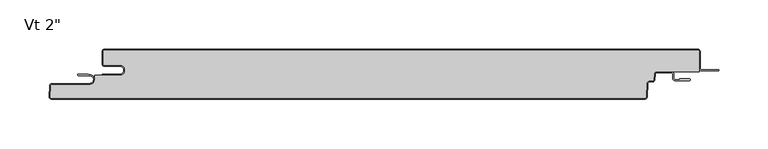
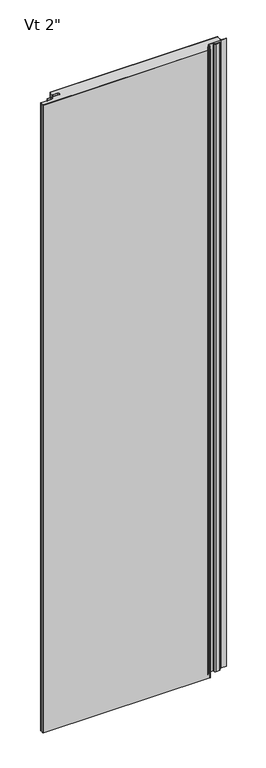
"""IFC4 building model written with IfcOpenShell, lengths in millimetres: plate geometry."""

from ifc_helpers import new_model, si_unit, point, frame, frame_2d, origin, origin_with_axes, place, context, project, spatial, polyline, circle_curve, ellipse_curve, trimmed, segment, composite_curve, outline, extrude, source, transform, mapped, element, save
from ifc_brep_helpers import plane_surface, cylinder_surface, revolved_surface, extruded_surface, advanced_brep


def plate_82fcdb9b(model_context):
    return source(origin(), model_context, "Body", "SolidModel", [
        extrude(outline(composite_curve([segment(trimmed(circle_curve(frame_2d((259.7683457, -25.4)), 2.5875), [point((259.7683457, -22.8125))], [point((257.1843918, -25.2645807))], True, "CARTESIAN"), True, "CONTINUOUS"), segment(polyline([(257.1843918, -25.2645807), (256.8823155, -31.028539)]), True, "CONTINUOUS"), segment(trimmed(circle_curve(frame_2d((255.5029585, -30.95625)), 1.38125), [point((256.8823155, -31.028539))], [point((255.5029585, -32.3375))], False, "CARTESIAN"), True, "CONTINUOUS"), segment(polyline([(255.5029585, -32.3375), (252.4591521, -32.3375)]), True, "CONTINUOUS"), segment(trimmed(circle_curve(frame_2d((252.4591521, -34.925)), 2.5875), [point((252.4591521, -32.3375))], [point((249.8751982, -34.7895807))], True, "CARTESIAN"), True, "CONTINUOUS"), segment(polyline([(249.8751982, -34.7895807), (249.1571352, -48.491039)]), True, "CONTINUOUS"), segment(trimmed(circle_curve(frame_2d((247.7777781, -48.41875)), 1.38125), [point((249.1571352, -48.491039))], [point((247.7777781, -49.8))], False, "CARTESIAN"), True, "CONTINUOUS"), segment(polyline([(247.7777781, -49.8), (-355.4656861, -49.8)]), True, "CONTINUOUS"), segment(trimmed(circle_curve(frame_2d((-355.4656861, -48.41875)), 1.38125), [point((-355.4656861, -49.8))], [point((-356.8450431, -48.346461))], False, "CARTESIAN"), True, "CONTINUOUS"), segment(polyline([(-356.8450431, -48.346461), (-356.2626617, -37.233961)]), True, "CONTINUOUS"), segment(trimmed(circle_curve(frame_2d((-354.8833046, -37.30625)), 1.38125), [point((-356.2626617, -37.233961))], [point((-354.8833046, -35.925))], False, "CARTESIAN"), True, "CONTINUOUS"), segment(polyline([(-354.8833046, -35.925), (-316.7, -35.925)]), True, "CONTINUOUS"), segment(trimmed(circle_curve(frame_2d((-316.7, -30.95625)), 4.96875), [point((-316.7, -35.925))], [point((-311.73125, -30.95625))], True, "CARTESIAN"), True, "CONTINUOUS"), segment(polyline([(-311.73125, -30.95625), (-311.73125, -26.4), (-285.74375, -26.4)]), True, "CONTINUOUS"), segment(trimmed(circle_curve(frame_2d((-285.74375, -21.43125)), 4.96875), [point((-285.74375, -26.4))], [point((-285.74375, -16.4625))], True, "CARTESIAN"), True, "CONTINUOUS"), segment(polyline([(-285.74375, -16.4625), (-301.61875, -16.4625)]), True, "CONTINUOUS"), segment(trimmed(circle_curve(frame_2d((-301.61875, -15.08125)), 1.38125), [point((-301.61875, -16.4625))], [point((-303.0, -15.08125))], False, "CARTESIAN"), True, "CONTINUOUS"), segment(polyline([(-303.0, -15.08125), (-303.0, -2.38125)]), True, "CONTINUOUS"), segment(trimmed(circle_curve(frame_2d((-301.61875, -2.38125)), 1.38125), [point((-303.0, -2.38125))], [point((-301.61875, -1.0))], False, "CARTESIAN"), True, "CONTINUOUS"), segment(polyline([(-301.61875, -1.0), (301.63125, -1.0)]), True, "CONTINUOUS"), segment(trimmed(circle_curve(frame_2d((301.63125, -2.38125)), 1.38125), [point((301.63125, -1.0))], [point((303.0125, -2.38125))], False, "CARTESIAN"), True, "CONTINUOUS"), segment(polyline([(303.0125, -2.38125), (303.0125, -22.8125), (259.7683457, -22.8125)]), True, "CONTINUOUS")], self_intersect=False)), origin_with_axes(), (0.0, 0.0, 1.0), 2400.0),
        extrude(outline(composite_curve([segment(polyline([(-304.0, -25.4), (-285.74375, -25.4)]), True, "CONTINUOUS"), segment(trimmed(circle_curve(frame_2d((-285.74375, -21.43125)), 3.96875), [point((-285.74375, -25.4))], [point((-285.74375, -17.4625))], True, "CARTESIAN"), True, "CONTINUOUS"), segment(polyline([(-285.74375, -17.4625), (-301.61875, -17.4625)]), True, "CONTINUOUS"), segment(trimmed(circle_curve(frame_2d((-301.61875, -15.08125)), 2.38125), [point((-301.61875, -17.4625))], [point((-304.0, -15.08125))], False, "CARTESIAN"), True, "CONTINUOUS"), segment(polyline([(-304.0, -15.08125), (-304.0, -2.38125)]), True, "CONTINUOUS"), segment(trimmed(circle_curve(frame_2d((-301.61875, -2.38125)), 2.38125), [point((-304.0, -2.38125))], [point((-301.61875, 0.0))], False, "CARTESIAN"), True, "CONTINUOUS"), segment(polyline([(-301.61875, 0.0), (301.63125, 0.0)]), True, "CONTINUOUS"), segment(trimmed(circle_curve(frame_2d((301.63125, -2.38125)), 2.38125), [point((301.63125, 0.0))], [point((304.0125, -2.38125))], False, "CARTESIAN"), True, "CONTINUOUS"), segment(polyline([(304.0125, -2.38125), (304.0125, -19.446875)]), True, "CONTINUOUS"), segment(trimmed(circle_curve(frame_2d((305.6, -19.446875)), 1.5875), [point((304.0125, -19.446875))], [point((305.6, -21.034375))], True, "CARTESIAN"), True, "CONTINUOUS"), segment(polyline([(305.6, -21.034375), (323.0625, -21.034375), (323.0625, -22.034375), (305.6, -22.034375)]), True, "CONTINUOUS"), segment(trimmed(circle_curve(frame_2d((305.6, -19.446875)), 2.5875), [point((305.6, -22.034375))], [point((303.0125, -19.446875))], False, "CARTESIAN"), True, "CONTINUOUS"), segment(polyline([(303.0125, -19.446875), (303.0125, -2.38125)]), True, "CONTINUOUS"), segment(trimmed(circle_curve(frame_2d((301.63125, -2.38125)), 1.38125), [point((303.0125, -2.38125))], [point((301.63125, -1.0))], True, "CARTESIAN"), True, "CONTINUOUS"), segment(polyline([(301.63125, -1.0), (-301.61875, -1.0)]), True, "CONTINUOUS"), segment(trimmed(circle_curve(frame_2d((-301.61875, -2.38125)), 1.38125), [point((-301.61875, -1.0))], [point((-303.0, -2.38125))], True, "CARTESIAN"), True, "CONTINUOUS"), segment(polyline([(-303.0, -2.38125), (-303.0, -15.08125)]), True, "CONTINUOUS"), segment(trimmed(circle_curve(frame_2d((-301.61875, -15.08125)), 1.38125), [point((-303.0, -15.08125))], [point((-301.61875, -16.4625))], True, "CARTESIAN"), True, "CONTINUOUS"), segment(polyline([(-301.61875, -16.4625), (-285.74375, -16.4625)]), True, "CONTINUOUS"), segment(trimmed(circle_curve(frame_2d((-285.74375, -21.43125)), 4.96875), [point((-285.74375, -16.4625))], [point((-285.74375, -26.4))], False, "CARTESIAN"), True, "CONTINUOUS"), segment(polyline([(-285.74375, -26.4), (-304.0, -26.4), (-304.0, -25.4)]), True, "CONTINUOUS")], self_intersect=False)), origin_with_axes(), (0.0, 0.0, 1.0), 2400.0),
        advanced_brep(
        [(-328.0252049, -25.4, 2400.0), (-328.0252049, -26.9875, 2400.0), (-316.7142674, -26.9875, 2400.0), (-316.7142674, -34.925, 2400.0), (-354.8975721, -34.925, 2400.0), (-357.2755586, -37.181625, 2400.0), (-357.8579401, -48.294125, 2400.0), (-355.4799535, -50.8, 2400.0), (247.7635107, -50.8, 2400.0), (250.1414973, -48.543375, 2400.0), (250.8595603, -34.8419167, 2400.0), (252.4448847, -33.3375, 2400.0), (255.4886911, -33.3375, 2400.0), (257.8666776, -31.080875, 2400.0), (258.1687539, -25.3169167, 2400.0), (259.7540783, -23.8125, 2400.0), (274.6294826, -23.8125, 2400.0), (276.2169826, -25.4, 2400.0), (276.2169826, -29.5671875, 2400.0), (278.5982326, -31.9484375, 2400.0), (293.0898532, -31.9484375, 2400.0), (293.0898532, -30.1546875, 2400.0), (283.3607326, -30.1546875, 2400.0), (283.3607326, -30.9484375, 2400.0), (278.5982326, -30.9484375, 2400.0), (277.2169826, -29.5671875, 2400.0), (277.2169826, -25.4, 2400.0), (274.6294826, -22.8125, 2400.0), (259.7540783, -22.8125, 2400.0), (257.1701244, -25.2645807, 2400.0), (256.8680481, -31.028539, 2400.0), (255.4886911, -32.3375, 2400.0), (252.4448847, -32.3375, 2400.0), (249.8609307, -34.7895807, 2400.0), (249.1428677, -48.491039, 2400.0), (247.7635107, -49.8, 2400.0), (-355.4799535, -49.8, 2400.0), (-356.8593106, -48.346461, 2400.0), (-356.2769291, -37.233961, 2400.0), (-354.8975721, -35.925, 2400.0), (-316.7142674, -35.925, 2400.0), (-316.7142674, -25.9875, 2400.0), (-318.3017674, -26.19375, 2400.0), (-318.3017674, -25.4, 2400.0), (-328.0252049, -25.4, 0.0), (-318.3017674, -25.4, 0.0), (-318.3017674, -26.19375, 0.0), (-316.7142674, -25.9875, 0.0), (-316.7142674, -35.925, 0.0), (-354.8975721, -35.925, 0.0), (-356.2769291, -37.233961, 0.0), (-356.8593106, -48.346461, 0.0), (-355.4799535, -49.8, 0.0), (247.7635107, -49.8, 0.0), (249.1428677, -48.491039, 0.0), (249.8609307, -34.7895807, 0.0), (252.4448847, -32.3375, 0.0), (255.4886911, -32.3375, 0.0), (256.8680481, -31.028539, 0.0), (257.1701244, -25.2645807, 0.0), (259.7540783, -22.8125, 0.0), (274.6294826, -22.8125, 0.0), (277.2169826, -25.4, 0.0), (277.2169826, -29.5671875, 0.0), (278.5982326, -30.9484375, 0.0), (283.3607326, -30.9484375, 0.0), (283.3607326, -30.1546875, 0.0), (293.0898532, -30.1546875, 0.0), (293.0898532, -31.9484375, 0.0), (278.5982326, -31.9484375, 0.0), (276.2169826, -29.5671875, 0.0), (276.2169826, -25.4, 0.0), (274.6294826, -23.8125, 0.0), (259.7540783, -23.8125, 0.0), (258.1687539, -25.3169167, 0.0), (257.8666776, -31.080875, 0.0), (255.4886911, -33.3375, 0.0), (252.4448847, -33.3375, 0.0), (250.8595603, -34.8419167, 0.0), (250.1414973, -48.543375, 0.0), (247.7635107, -50.8, 0.0), (-355.4799535, -50.8, 0.0), (-357.8579401, -48.294125, 0.0), (-357.2755586, -37.181625, 0.0), (-354.8975721, -34.925, 0.0), (-316.7142674, -34.925, 0.0), (-316.7142674, -26.9875, 0.0), (-328.0252049, -26.9875, 0.0)],
        [
            (0, 1, circle_curve(frame((-328.0252049, -26.19375, 2400.0), z_axis=(0.0, 0.0, 1.0), x_axis=(1.0, 0.0, 0.0)), 0.79375)),
            (1, 2),
            (2, 3, circle_curve(frame((-316.7142674, -30.95625, 2400.0), z_axis=(0.0, 0.0, -1.0), x_axis=(1.0, 0.0, 0.0)), 3.96875)),
            (3, 4),
            (4, 5, circle_curve(frame((-354.8975721, -37.30625, 2400.0), z_axis=(0.0, 0.0, 1.0), x_axis=(1.0, 0.0, 0.0)), 2.38125)),
            (5, 6),
            (6, 7, circle_curve(frame((-355.4799535, -48.41875, 2400.0), z_axis=(0.0, 0.0, 1.0), x_axis=(1.0, 0.0, 0.0)), 2.38125)),
            (7, 8),
            (8, 9, circle_curve(frame((247.7635107, -48.41875, 2400.0), z_axis=(0.0, 0.0, 1.0), x_axis=(1.0, 0.0, 0.0)), 2.38125)),
            (9, 10),
            (10, 11, circle_curve(frame((252.4448847, -34.925, 2400.0), z_axis=(0.0, 0.0, -1.0), x_axis=(1.0, 0.0, 0.0)), 1.5875)),
            (11, 12),
            (12, 13, circle_curve(frame((255.4886911, -30.95625, 2400.0), z_axis=(0.0, 0.0, 1.0), x_axis=(1.0, 0.0, 0.0)), 2.38125)),
            (13, 14),
            (14, 15, circle_curve(frame((259.7540783, -25.4, 2400.0), z_axis=(0.0, 0.0, -1.0), x_axis=(1.0, 0.0, 0.0)), 1.5875)),
            (15, 16),
            (16, 17, circle_curve(frame((274.6294826, -25.4, 2400.0), z_axis=(0.0, 0.0, -1.0), x_axis=(1.0, 0.0, 0.0)), 1.5875)),
            (17, 18),
            (18, 19, circle_curve(frame((278.5982326, -29.5671875, 2400.0), z_axis=(0.0, 0.0, 1.0), x_axis=(1.0, 0.0, 0.0)), 2.38125)),
            (19, 20),
            (20, 21, ellipse_curve(frame((293.0898532, -31.0515625, 2400.0), z_axis=(0.0, 0.0, 1.0), x_axis=(0.0, 1.0, 0.0)), 0.896875, 0.7852275)),
            (21, 22),
            (22, 23),
            (23, 24),
            (24, 25, circle_curve(frame((278.5982326, -29.5671875, 2400.0), z_axis=(0.0, 0.0, -1.0), x_axis=(1.0, 0.0, 0.0)), 1.38125)),
            (25, 26),
            (26, 27, circle_curve(frame((274.6294826, -25.4, 2400.0), z_axis=(0.0, 0.0, 1.0), x_axis=(1.0, 0.0, 0.0)), 2.5875)),
            (27, 28),
            (28, 29, circle_curve(frame((259.7540783, -25.4, 2400.0), z_axis=(0.0, 0.0, 1.0), x_axis=(1.0, 0.0, 0.0)), 2.5875)),
            (29, 30),
            (30, 31, circle_curve(frame((255.4886911, -30.95625, 2400.0), z_axis=(0.0, 0.0, -1.0), x_axis=(1.0, 0.0, 0.0)), 1.38125)),
            (31, 32),
            (32, 33, circle_curve(frame((252.4448847, -34.925, 2400.0), z_axis=(0.0, 0.0, 1.0), x_axis=(1.0, 0.0, 0.0)), 2.5875)),
            (33, 34),
            (34, 35, circle_curve(frame((247.7635107, -48.41875, 2400.0), z_axis=(0.0, 0.0, -1.0), x_axis=(1.0, 0.0, 0.0)), 1.38125)),
            (35, 36),
            (36, 37, circle_curve(frame((-355.4799535, -48.41875, 2400.0), z_axis=(0.0, 0.0, -1.0), x_axis=(1.0, 0.0, 0.0)), 1.38125)),
            (37, 38),
            (38, 39, circle_curve(frame((-354.8975721, -37.30625, 2400.0), z_axis=(0.0, 0.0, -1.0), x_axis=(1.0, 0.0, 0.0)), 1.38125)),
            (39, 40),
            (40, 41, circle_curve(frame((-316.7142674, -30.95625, 2400.0), z_axis=(0.0, 0.0, 1.0), x_axis=(1.0, 0.0, 0.0)), 4.96875)),
            (41, 42),
            (42, 43),
            (43, 0),
            (44, 45),
            (45, 46),
            (46, 47),
            (47, 48, circle_curve(frame((-316.7142674, -30.95625, 0.0), z_axis=(0.0, 0.0, -1.0), x_axis=(1.0, 0.0, 0.0)), 4.96875)),
            (48, 49),
            (49, 50, circle_curve(frame((-354.8975721, -37.30625, 0.0), z_axis=(0.0, 0.0, 1.0), x_axis=(1.0, 0.0, 0.0)), 1.38125)),
            (50, 51),
            (51, 52, circle_curve(frame((-355.4799535, -48.41875, 0.0), z_axis=(0.0, 0.0, 1.0), x_axis=(1.0, 0.0, 0.0)), 1.38125)),
            (52, 53),
            (53, 54, circle_curve(frame((247.7635107, -48.41875, 0.0), z_axis=(0.0, 0.0, 1.0), x_axis=(1.0, 0.0, 0.0)), 1.38125)),
            (54, 55),
            (55, 56, circle_curve(frame((252.4448847, -34.925, 0.0), z_axis=(0.0, 0.0, -1.0), x_axis=(1.0, 0.0, 0.0)), 2.5875)),
            (56, 57),
            (57, 58, circle_curve(frame((255.4886911, -30.95625, 0.0), z_axis=(0.0, 0.0, 1.0), x_axis=(1.0, 0.0, 0.0)), 1.38125)),
            (58, 59),
            (59, 60, circle_curve(frame((259.7540783, -25.4, 0.0), z_axis=(0.0, 0.0, -1.0), x_axis=(1.0, 0.0, 0.0)), 2.5875)),
            (60, 61),
            (61, 62, circle_curve(frame((274.6294826, -25.4, 0.0), z_axis=(0.0, 0.0, -1.0), x_axis=(1.0, 0.0, 0.0)), 2.5875)),
            (62, 63),
            (63, 64, circle_curve(frame((278.5982326, -29.5671875, 0.0), z_axis=(0.0, 0.0, 1.0), x_axis=(1.0, 0.0, 0.0)), 1.38125)),
            (64, 65),
            (65, 66),
            (66, 67),
            (67, 68, ellipse_curve(frame((293.0898532, -31.0515625, 0.0), z_axis=(0.0, 0.0, -1.0), x_axis=(0.0, 1.0, 0.0)), 0.896875, 0.7852275)),
            (68, 69),
            (69, 70, circle_curve(frame((278.5982326, -29.5671875, 0.0), z_axis=(0.0, 0.0, -1.0), x_axis=(1.0, 0.0, 0.0)), 2.38125)),
            (70, 71),
            (71, 72, circle_curve(frame((274.6294826, -25.4, 0.0), z_axis=(0.0, 0.0, 1.0), x_axis=(1.0, 0.0, 0.0)), 1.5875)),
            (72, 73),
            (73, 74, circle_curve(frame((259.7540783, -25.4, 0.0), z_axis=(0.0, 0.0, 1.0), x_axis=(1.0, 0.0, 0.0)), 1.5875)),
            (74, 75),
            (75, 76, circle_curve(frame((255.4886911, -30.95625, 0.0), z_axis=(0.0, 0.0, -1.0), x_axis=(1.0, 0.0, 0.0)), 2.38125)),
            (76, 77),
            (77, 78, circle_curve(frame((252.4448847, -34.925, 0.0), z_axis=(0.0, 0.0, 1.0), x_axis=(1.0, 0.0, 0.0)), 1.5875)),
            (78, 79),
            (79, 80, circle_curve(frame((247.7635107, -48.41875, 0.0), z_axis=(0.0, 0.0, -1.0), x_axis=(1.0, 0.0, 0.0)), 2.38125)),
            (80, 81),
            (81, 82, circle_curve(frame((-355.4799535, -48.41875, 0.0), z_axis=(0.0, 0.0, -1.0), x_axis=(1.0, 0.0, 0.0)), 2.38125)),
            (82, 83),
            (83, 84, circle_curve(frame((-354.8975721, -37.30625, 0.0), z_axis=(0.0, 0.0, -1.0), x_axis=(1.0, 0.0, 0.0)), 2.38125)),
            (84, 85),
            (85, 86, circle_curve(frame((-316.7142674, -30.95625, 0.0), z_axis=(0.0, 0.0, 1.0), x_axis=(1.0, 0.0, 0.0)), 3.96875)),
            (86, 87),
            (87, 44, circle_curve(frame((-328.0252049, -26.19375, 0.0), z_axis=(0.0, 0.0, -1.0), x_axis=(1.0, 0.0, 0.0)), 0.79375)),
            (20, 68),
            (67, 21),
            (66, 22),
            (65, 23),
            (41, 47),
            (46, 42),
            (45, 43),
            (40, 48),
            (39, 49),
            (38, 50),
            (37, 51),
            (33, 55),
            (54, 34),
            (32, 56),
            (31, 57),
            (30, 58),
            (29, 59),
            (28, 60),
            (64, 24),
            (63, 25),
            (62, 26),
            (61, 27),
            (18, 70),
            (69, 19),
            (17, 71),
            (16, 72),
            (15, 73),
            (14, 74),
            (13, 75),
            (12, 76),
            (11, 77),
            (10, 78),
            (9, 79),
            (5, 83),
            (82, 6),
            (4, 84),
            (3, 85),
            (2, 86),
            (1, 87),
            (0, 44),
            (36, 52),
            (35, 53),
            (8, 80),
            (7, 81),
        ],
        [
            plane_surface(frame((0.00625, -50.8, 2400.0), z_axis=(0.0, 0.0, 1.0), x_axis=(0.0, -1.0, 0.0))),
            plane_surface(frame((0.00625, -50.8, 0.0), z_axis=(0.0, 0.0, -1.0), x_axis=(0.0, -1.0, 0.0))),
            extruded_surface(trimmed(ellipse_curve(frame((293.0898532, -31.0515625, 2400.0), z_axis=(0.0, 0.0, -1.0), x_axis=(0.0, 1.0, 0.0)), 0.896875, 0.7852275), [point((293.0898532, -30.1546875, 2400.0))], [point((293.0898532, -31.9484375, 2400.0))], True, "CARTESIAN"), (0.0, 0.0, -2400.0), 2400.0),
            plane_surface(frame((283.3607326, -30.1546875, 2400.0), z_axis=(0.0, 1.0, 0.0), x_axis=(0.0, 0.0, -1.0))),
            plane_surface(frame((283.3607326, -30.9484375, 2400.0), z_axis=(-1.0, 0.0, 0.0), x_axis=(0.0, 0.0, -1.0))),
            plane_surface(frame((-318.3017674, -26.19375, 2400.0), z_axis=(-0.12883844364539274, 0.9916655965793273, 0.0), x_axis=(0.0, 0.0, -1.0))),
            plane_surface(frame((-318.3017674, -25.4, 2400.0), z_axis=(1.0, 0.0, 0.0), x_axis=(0.0, 0.0, -1.0))),
            cylinder_surface(frame((-316.7142674, -30.95625, 2400.0), z_axis=(0.0, 0.0, 1.0), x_axis=(1.0, 0.0, 0.0)), 4.96875),
            plane_surface(frame((-316.7142674, -35.925, 2400.0), z_axis=(0.0, -1.0, 0.0), x_axis=(0.0, 0.0, -1.0))),
            revolved_surface(polyline([(-353.51632209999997, -37.30625, 0.0), (-353.51632209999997, -37.30625, 2400.0)]), (-354.8975721, -37.30625, 2400.0), (0.0, 0.0, -1.0)),
            plane_surface(frame((-356.2769291, -37.233961, 2400.0), z_axis=(0.9986295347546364, -0.05233595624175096, 0.0), x_axis=(0.0, 0.0, -1.0))),
            plane_surface(frame((249.1428677, -48.491039, 2400.0), z_axis=(-0.9986295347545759, 0.05233595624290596, 0.0), x_axis=(0.0, 0.0, -1.0))),
            cylinder_surface(frame((252.4448847, -34.925, 2400.0), z_axis=(0.0, 0.0, 1.0), x_axis=(1.0, 0.0, 0.0)), 2.5875),
            plane_surface(frame((252.4448847, -32.3375, 2400.0), z_axis=(0.0, 1.0, 0.0), x_axis=(0.0, 0.0, -1.0))),
            revolved_surface(polyline([(256.8699411, -30.95625, 0.0), (256.8699411, -30.95625, 2400.0)]), (255.4886911, -30.95625, 2400.0), (0.0, 0.0, -1.0)),
            plane_surface(frame((256.8680481, -31.028539, 2400.0), z_axis=(-0.998629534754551, 0.05233595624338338, 0.0), x_axis=(0.0, 0.0, -1.0))),
            cylinder_surface(frame((259.7540783, -25.4, 2400.0), z_axis=(0.0, 0.0, 1.0), x_axis=(1.0, 0.0, 0.0)), 2.5875),
            plane_surface(frame((278.5982326, -30.9484375, 2400.0), z_axis=(0.0, 1.0, 0.0), x_axis=(0.0, 0.0, -1.0))),
            revolved_surface(polyline([(279.97948260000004, -29.5671875, 0.0), (279.97948260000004, -29.5671875, 2400.0)]), (278.5982326, -29.5671875, 2400.0), (0.0, 0.0, -1.0)),
            plane_surface(frame((277.2169826, -25.4, 2400.0), z_axis=(1.0, 0.0, 0.0), x_axis=(0.0, 0.0, -1.0))),
            cylinder_surface(frame((274.6294826, -25.4, 2400.0), z_axis=(0.0, 0.0, 1.0), x_axis=(1.0, 0.0, 0.0)), 2.5875),
            plane_surface(frame((259.7540783, -22.8125, 2400.0), z_axis=(0.0, 1.0, 0.0), x_axis=(0.0, 0.0, -1.0))),
            cylinder_surface(frame((278.5982326, -29.5671875, 2400.0), z_axis=(0.0, 0.0, 1.0), x_axis=(1.0, 0.0, 0.0)), 2.38125),
            plane_surface(frame((276.2169826, -29.5671875, 2400.0), z_axis=(-1.0, 0.0, 0.0), x_axis=(0.0, 0.0, -1.0))),
            revolved_surface(polyline([(276.2169826, -25.4, 0.0), (276.2169826, -25.4, 2400.0)]), (274.6294826, -25.4, 2400.0), (0.0, 0.0, -1.0)),
            plane_surface(frame((274.6294826, -23.8125, 2400.0), z_axis=(0.0, -1.0, 0.0), x_axis=(0.0, 0.0, -1.0))),
            revolved_surface(polyline([(261.3415783, -25.4, 0.0), (261.3415783, -25.4, 2400.0)]), (259.7540783, -25.4, 2400.0), (0.0, 0.0, -1.0)),
            plane_surface(frame((258.1687539, -25.3169167, 2400.0), z_axis=(0.9986295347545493, -0.05233595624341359, 0.0), x_axis=(0.0, 0.0, -1.0))),
            cylinder_surface(frame((255.4886911, -30.95625, 2400.0), z_axis=(0.0, 0.0, 1.0), x_axis=(1.0, 0.0, 0.0)), 2.38125),
            plane_surface(frame((255.4886911, -33.3375, 2400.0), z_axis=(0.0, -1.0, 0.0), x_axis=(0.0, 0.0, -1.0))),
            revolved_surface(polyline([(254.0323847, -34.925, 0.0), (254.0323847, -34.925, 2400.0)]), (252.4448847, -34.925, 2400.0), (0.0, 0.0, -1.0)),
            plane_surface(frame((250.8595603, -34.8419167, 2400.0), z_axis=(0.9986295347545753, -0.052335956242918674, 0.0), x_axis=(0.0, 0.0, -1.0))),
            plane_surface(frame((-357.8579401, -48.294125, 2400.0), z_axis=(-0.9986295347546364, 0.05233595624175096, 0.0), x_axis=(0.0, 0.0, -1.0))),
            cylinder_surface(frame((-354.8975721, -37.30625, 2400.0), z_axis=(0.0, 0.0, 1.0), x_axis=(1.0, 0.0, 0.0)), 2.38125),
            plane_surface(frame((-354.8975721, -34.925, 2400.0), z_axis=(0.0, 1.0, 0.0), x_axis=(0.0, 0.0, -1.0))),
            revolved_surface(polyline([(-312.7455174, -30.95625, 0.0), (-312.7455174, -30.95625, 2400.0)]), (-316.7142674, -30.95625, 2400.0), (0.0, 0.0, -1.0)),
            plane_surface(frame((-316.7142674, -26.9875, 2400.0), z_axis=(0.0, -1.0, 0.0), x_axis=(0.0, 0.0, -1.0))),
            cylinder_surface(frame((-328.0252049, -26.19375, 2400.0), z_axis=(0.0, 0.0, 1.0), x_axis=(1.0, 0.0, 0.0)), 0.79375),
            plane_surface(frame((-328.0252049, -25.4, 2400.0), z_axis=(0.0, 1.0, 0.0), x_axis=(0.0, 0.0, -1.0))),
            revolved_surface(polyline([(-354.0987035, -48.41875, 0.0), (-354.0987035, -48.41875, 2400.0)]), (-355.4799535, -48.41875, 2400.0), (0.0, 0.0, -1.0)),
            plane_surface(frame((-355.4799535, -49.8, 2400.0), z_axis=(0.0, 1.0, 0.0), x_axis=(0.0, 0.0, -1.0))),
            revolved_surface(polyline([(249.1447607, -48.41875, 0.0), (249.1447607, -48.41875, 2400.0)]), (247.7635107, -48.41875, 2400.0), (0.0, 0.0, -1.0)),
            plane_surface(frame((293.0898532, -31.9484375, 2400.0), z_axis=(0.0, -1.0, 0.0), x_axis=(0.0, 0.0, -1.0))),
            cylinder_surface(frame((247.7635107, -48.41875, 2400.0), z_axis=(0.0, 0.0, 1.0), x_axis=(1.0, 0.0, 0.0)), 2.38125),
            plane_surface(frame((247.7635107, -50.8, 2400.0), z_axis=(0.0, -1.0, 0.0), x_axis=(0.0, 0.0, -1.0))),
            cylinder_surface(frame((-355.4799535, -48.41875, 2400.0), z_axis=(0.0, 0.0, 1.0), x_axis=(1.0, 0.0, 0.0)), 2.38125),
        ],
        [
            (0, [[1, 2, 3, 4, 5, 6, 7, 8, 9, 10, 11, 12, 13, 14, 15, 16, 17, 18, 19, 20, 21, 22, 23, 24, 25, 26, 27, 28, 29, 30, 31, 32, 33, 34, 35, 36, 37, 38, 39, 40, 41, 42, 43, 44]]),
            (1, [[45, 46, 47, 48, 49, 50, 51, 52, 53, 54, 55, 56, 57, 58, 59, 60, 61, 62, 63, 64, 65, 66, 67, 68, 69, 70, 71, 72, 73, 74, 75, 76, 77, 78, 79, 80, 81, 82, 83, 84, 85, 86, 87, 88]]),
            (2, [[89, -68, 90, -21]]),
            (3, [[-90, -67, 91, -22]]),
            (4, [[-91, -66, 92, -23]]),
            (5, [[93, -47, 94, -42]]),
            (6, [[-94, -46, 95, -43]]),
            (7, [[96, -48, -93, -41]]),
            (8, [[97, -49, -96, -40]]),
            (9, [[98, -50, -97, -39]]),
            (10, [[99, -51, -98, -38]]),
            (11, [[100, -55, 101, -34]]),
            (12, [[102, -56, -100, -33]]),
            (13, [[103, -57, -102, -32]]),
            (14, [[104, -58, -103, -31]]),
            (15, [[105, -59, -104, -30]]),
            (16, [[106, -60, -105, -29]]),
            (17, [[-92, -65, 107, -24]]),
            (18, [[-107, -64, 108, -25]]),
            (19, [[-108, -63, 109, -26]]),
            (20, [[-109, -62, 110, -27]]),
            (21, [[-110, -61, -106, -28]]),
            (22, [[111, -70, 112, -19]]),
            (23, [[113, -71, -111, -18]]),
            (24, [[114, -72, -113, -17]]),
            (25, [[115, -73, -114, -16]]),
            (26, [[116, -74, -115, -15]]),
            (27, [[117, -75, -116, -14]]),
            (28, [[118, -76, -117, -13]]),
            (29, [[119, -77, -118, -12]]),
            (30, [[120, -78, -119, -11]]),
            (31, [[121, -79, -120, -10]]),
            (32, [[122, -83, 123, -6]]),
            (33, [[124, -84, -122, -5]]),
            (34, [[125, -85, -124, -4]]),
            (35, [[126, -86, -125, -3]]),
            (36, [[127, -87, -126, -2]]),
            (37, [[128, -88, -127, -1]]),
            (38, [[-95, -45, -128, -44]]),
            (39, [[129, -52, -99, -37]]),
            (40, [[130, -53, -129, -36]]),
            (41, [[-101, -54, -130, -35]]),
            (42, [[-112, -69, -89, -20]]),
            (43, [[131, -80, -121, -9]]),
            (44, [[132, -81, -131, -8]]),
            (45, [[-123, -82, -132, -7]]),
        ],
    ),
    ])


if __name__ == "__main__":
    model = new_model("IFC4")
    model_context = context("Model", 3, world=origin())
    ifc_project = project(units=[si_unit("LENGTHUNIT", "METRE", prefix="MILLI")], contexts=[model_context])
    site = spatial("IfcSite", under=ifc_project)
    building = spatial("IfcBuilding", under=site)
    placement = place(None, origin())
    plate_shape = plate_82fcdb9b(model_context)
    element("IfcPlate", 1, ObjectType="KIP-24-DWTR-R19-CP-Vt-F : Vt 2\"", at=placement, inside=building, context=model_context, shape_type="MappedRepresentation", body=[
        mapped(plate_shape, transform((0.0, 0.0, 0.0), x_axis=(1.0, 0.0, 0.0), y_axis=(0.0, 1.0, 0.0), z_axis=(0.0, 0.0, 1.0))),
    ])
    save(model, "model.ifc")
